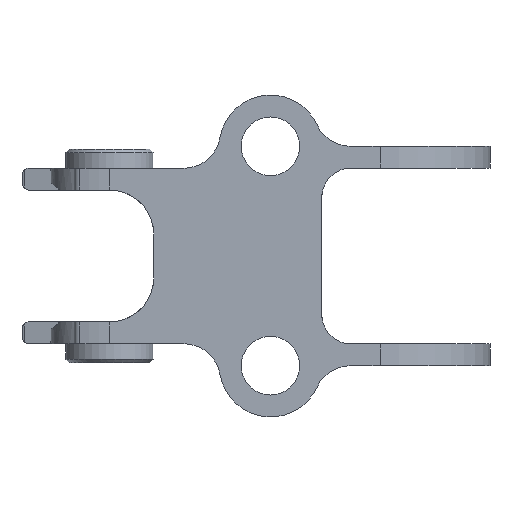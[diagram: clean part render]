
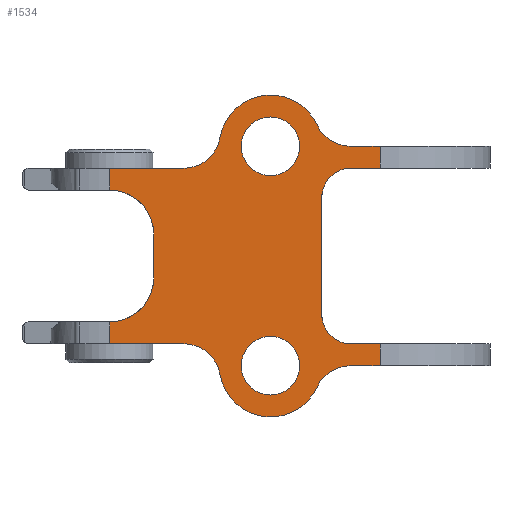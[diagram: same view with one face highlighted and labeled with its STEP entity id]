
A CAD part, front view. The second image highlights one B-rep face of the part: STEP entity #1534.
In plain terms, the highlighted planar face has unit normal (0, -1, 0).
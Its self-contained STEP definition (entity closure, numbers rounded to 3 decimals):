
#60=CARTESIAN_POINT('',(140.096,175.713,15.));
#61=VERTEX_POINT('',#60);
#62=CARTESIAN_POINT('',(138.096,175.713,15.));
#63=DIRECTION('',(0.0,1.0,0.0));
#64=DIRECTION('',(-1.0,0.0,0.0));
#65=AXIS2_PLACEMENT_3D('',#62,#63,#64);
#66=CIRCLE('',#65,2.0);
#67=EDGE_CURVE('',#61,#61,#66,.T.);
#88=CARTESIAN_POINT('',(140.096,175.713,0.));
#89=VERTEX_POINT('',#88);
#90=CARTESIAN_POINT('',(138.096,175.713,0.));
#91=DIRECTION('',(0.0,1.0,0.0));
#92=DIRECTION('',(-1.0,0.0,0.0));
#93=AXIS2_PLACEMENT_3D('',#90,#91,#92);
#94=CIRCLE('',#93,2.0);
#95=EDGE_CURVE('',#89,#89,#94,.T.);
#116=CARTESIAN_POINT('',(141.278,175.713,16.458));
#117=VERTEX_POINT('',#116);
#124=CARTESIAN_POINT('',(143.55,175.713,15.));
#125=VERTEX_POINT('',#124);
#126=CARTESIAN_POINT('',(143.55,175.713,17.5));
#127=DIRECTION('',(0.0,-1.0,0.0));
#128=DIRECTION('',(-0.909,0.0,-0.417));
#129=AXIS2_PLACEMENT_3D('',#126,#127,#128);
#130=CIRCLE('',#129,2.5);
#131=EDGE_CURVE('',#117,#125,#130,.T.);
#156=CARTESIAN_POINT('',(134.645,175.713,15.583));
#157=VERTEX_POINT('',#156);
#164=CARTESIAN_POINT('',(138.096,175.713,15.));
#165=DIRECTION('',(0.0,1.0,0.0));
#166=DIRECTION('',(-0.909,0.0,-0.417));
#167=AXIS2_PLACEMENT_3D('',#164,#165,#166);
#168=CIRCLE('',#167,3.5);
#169=EDGE_CURVE('',#157,#117,#168,.T.);
#189=CARTESIAN_POINT('',(132.18,175.713,13.5));
#190=VERTEX_POINT('',#189);
#197=CARTESIAN_POINT('',(132.18,175.713,16.));
#198=DIRECTION('',(0.0,-1.,0.0));
#199=DIRECTION('',(0.,0.0,-1.));
#200=AXIS2_PLACEMENT_3D('',#197,#198,#199);
#201=CIRCLE('',#200,2.5);
#202=EDGE_CURVE('',#190,#157,#201,.T.);
#224=CARTESIAN_POINT('',(134.645,175.713,-0.583));
#225=VERTEX_POINT('',#224);
#232=CARTESIAN_POINT('',(132.18,175.713,1.5));
#233=VERTEX_POINT('',#232);
#234=CARTESIAN_POINT('',(132.18,175.713,-1.));
#235=DIRECTION('',(0.0,-1.,0.0));
#236=DIRECTION('',(0.986,0.0,0.167));
#237=AXIS2_PLACEMENT_3D('',#234,#235,#236);
#238=CIRCLE('',#237,2.5);
#239=EDGE_CURVE('',#225,#233,#238,.T.);
#264=CARTESIAN_POINT('',(141.278,175.713,-1.458));
#265=VERTEX_POINT('',#264);
#272=CARTESIAN_POINT('',(138.096,175.713,0.));
#273=DIRECTION('',(0.0,1.,0.0));
#274=DIRECTION('',(0.986,0.0,0.167));
#275=AXIS2_PLACEMENT_3D('',#272,#273,#274);
#276=CIRCLE('',#275,3.5);
#277=EDGE_CURVE('',#265,#225,#276,.T.);
#297=CARTESIAN_POINT('',(143.55,175.713,0.0));
#298=VERTEX_POINT('',#297);
#305=CARTESIAN_POINT('',(143.55,175.713,-2.5));
#306=DIRECTION('',(0.0,-1.0,0.0));
#307=DIRECTION('',(0.0,0.0,1.0));
#308=AXIS2_PLACEMENT_3D('',#305,#306,#307);
#309=CIRCLE('',#308,2.5);
#310=EDGE_CURVE('',#298,#265,#309,.T.);
#330=CARTESIAN_POINT('',(130.115,175.713,13.5));
#331=VERTEX_POINT('',#330);
#338=CARTESIAN_POINT('',(132.18,175.713,13.5));
#339=DIRECTION('',(-1.,0.,0.));
#340=VECTOR('',#339,2.064);
#341=LINE('',#338,#340);
#342=EDGE_CURVE('',#190,#331,#341,.T.);
#361=CARTESIAN_POINT('',(145.596,175.713,0.0));
#362=VERTEX_POINT('',#361);
#370=CARTESIAN_POINT('',(143.55,175.713,0.0));
#371=DIRECTION('',(1.0,0.0,0.0));
#372=VECTOR('',#371,2.046);
#373=LINE('',#370,#372);
#374=EDGE_CURVE('',#298,#362,#373,.T.);
#425=CARTESIAN_POINT('',(145.596,175.713,1.5));
#426=VERTEX_POINT('',#425);
#442=CARTESIAN_POINT('',(143.596,175.713,1.5));
#443=VERTEX_POINT('',#442);
#450=CARTESIAN_POINT('',(145.596,175.713,1.5));
#451=DIRECTION('',(-1.0,0.0,0.0));
#452=VECTOR('',#451,2.);
#453=LINE('',#450,#452);
#454=EDGE_CURVE('',#426,#443,#453,.T.);
#507=CARTESIAN_POINT('',(145.596,175.713,13.5));
#508=VERTEX_POINT('',#507);
#518=CARTESIAN_POINT('',(143.596,175.713,13.5));
#519=VERTEX_POINT('',#518);
#520=CARTESIAN_POINT('',(143.596,175.713,13.5));
#521=DIRECTION('',(1.0,0.0,0.0));
#522=VECTOR('',#521,2.);
#523=LINE('',#520,#522);
#524=EDGE_CURVE('',#519,#508,#523,.T.);
#1002=CARTESIAN_POINT('',(141.596,175.713,11.5));
#1003=VERTEX_POINT('',#1002);
#1004=CARTESIAN_POINT('',(143.596,175.713,11.5));
#1005=DIRECTION('',(0.0,1.0,0.0));
#1006=DIRECTION('',(-1.0,0.0,0.0));
#1007=AXIS2_PLACEMENT_3D('',#1004,#1005,#1006);
#1008=CIRCLE('',#1007,2.0);
#1009=EDGE_CURVE('',#1003,#519,#1008,.T.);
#1107=CARTESIAN_POINT('',(127.115,175.713,12.));
#1108=VERTEX_POINT('',#1107);
#1115=CARTESIAN_POINT('',(127.096,175.713,12.));
#1116=VERTEX_POINT('',#1115);
#1117=CARTESIAN_POINT('',(127.096,175.713,12.));
#1118=DIRECTION('',(1.0,0.,0.0));
#1119=VECTOR('',#1118,0.02);
#1120=LINE('',#1117,#1119);
#1121=EDGE_CURVE('',#1116,#1108,#1120,.T.);
#1190=CARTESIAN_POINT('',(130.115,175.713,9.));
#1191=VERTEX_POINT('',#1190);
#1198=CARTESIAN_POINT('',(127.115,175.713,9.));
#1199=DIRECTION('',(0.0,1.0,0.0));
#1200=DIRECTION('',(0.0,0.0,-1.0));
#1201=AXIS2_PLACEMENT_3D('',#1198,#1199,#1200);
#1202=CIRCLE('',#1201,3.);
#1203=EDGE_CURVE('',#1108,#1191,#1202,.T.);
#1239=CARTESIAN_POINT('',(130.115,175.713,6.));
#1240=VERTEX_POINT('',#1239);
#1247=CARTESIAN_POINT('',(130.115,175.713,9.));
#1248=DIRECTION('',(0.0,0.0,-1.0));
#1249=VECTOR('',#1248,3.);
#1250=LINE('',#1247,#1249);
#1251=EDGE_CURVE('',#1191,#1240,#1250,.T.);
#1288=CARTESIAN_POINT('',(127.115,175.713,3.));
#1289=VERTEX_POINT('',#1288);
#1296=CARTESIAN_POINT('',(127.115,175.713,6.));
#1297=DIRECTION('',(0.0,1.0,0.0));
#1298=DIRECTION('',(-1.0,0.0,0.0));
#1299=AXIS2_PLACEMENT_3D('',#1296,#1297,#1298);
#1300=CIRCLE('',#1299,3.);
#1301=EDGE_CURVE('',#1240,#1289,#1300,.T.);
#1423=CARTESIAN_POINT('',(127.096,175.713,3.));
#1424=VERTEX_POINT('',#1423);
#1432=CARTESIAN_POINT('',(127.115,175.713,3.));
#1433=DIRECTION('',(-1.0,0.,0.0));
#1434=VECTOR('',#1433,0.02);
#1435=LINE('',#1432,#1434);
#1436=EDGE_CURVE('',#1289,#1424,#1435,.T.);
#1442=CARTESIAN_POINT('',(145.596,175.713,0.0));
#1443=DIRECTION('',(0.0,-1.0,0.0));
#1444=DIRECTION('',(0.0,0.0,-1.0));
#1445=AXIS2_PLACEMENT_3D('',#1442,#1443,#1444);
#1446=PLANE('',#1445);
#1447=CARTESIAN_POINT('',(127.096,175.713,13.5));
#1448=VERTEX_POINT('',#1447);
#1449=CARTESIAN_POINT('',(130.115,175.713,13.5));
#1450=DIRECTION('',(-1.,0.,0.));
#1451=VECTOR('',#1450,3.02);
#1452=LINE('',#1449,#1451);
#1453=EDGE_CURVE('',#331,#1448,#1452,.T.);
#1454=ORIENTED_EDGE('',*,*,#1453,.T.);
#1455=CARTESIAN_POINT('',(127.096,175.713,12.));
#1456=DIRECTION('',(0.0,0.0,1.0));
#1457=VECTOR('',#1456,1.5);
#1458=LINE('',#1455,#1457);
#1459=EDGE_CURVE('',#1116,#1448,#1458,.T.);
#1460=ORIENTED_EDGE('',*,*,#1459,.F.);
#1461=ORIENTED_EDGE('',*,*,#1121,.T.);
#1462=ORIENTED_EDGE('',*,*,#1203,.T.);
#1463=ORIENTED_EDGE('',*,*,#1251,.T.);
#1464=ORIENTED_EDGE('',*,*,#1301,.T.);
#1465=ORIENTED_EDGE('',*,*,#1436,.T.);
#1466=CARTESIAN_POINT('',(127.096,175.713,1.5));
#1467=VERTEX_POINT('',#1466);
#1468=CARTESIAN_POINT('',(127.096,175.713,1.5));
#1469=DIRECTION('',(0.0,0.0,1.0));
#1470=VECTOR('',#1469,1.5);
#1471=LINE('',#1468,#1470);
#1472=EDGE_CURVE('',#1467,#1424,#1471,.T.);
#1473=ORIENTED_EDGE('',*,*,#1472,.F.);
#1474=CARTESIAN_POINT('',(127.096,175.713,1.5));
#1475=DIRECTION('',(1.0,0.0,0.));
#1476=VECTOR('',#1475,5.084);
#1477=LINE('',#1474,#1476);
#1478=EDGE_CURVE('',#1467,#233,#1477,.T.);
#1479=ORIENTED_EDGE('',*,*,#1478,.T.);
#1480=ORIENTED_EDGE('',*,*,#239,.F.);
#1481=ORIENTED_EDGE('',*,*,#277,.F.);
#1482=ORIENTED_EDGE('',*,*,#310,.F.);
#1483=ORIENTED_EDGE('',*,*,#374,.T.);
#1484=CARTESIAN_POINT('',(145.596,175.713,0.0));
#1485=DIRECTION('',(0.0,0.0,1.0));
#1486=VECTOR('',#1485,1.5);
#1487=LINE('',#1484,#1486);
#1488=EDGE_CURVE('',#362,#426,#1487,.T.);
#1489=ORIENTED_EDGE('',*,*,#1488,.T.);
#1490=ORIENTED_EDGE('',*,*,#454,.T.);
#1491=CARTESIAN_POINT('',(141.596,175.713,3.5));
#1492=VERTEX_POINT('',#1491);
#1493=CARTESIAN_POINT('',(143.596,175.713,3.5));
#1494=DIRECTION('',(0.0,1.0,0.0));
#1495=DIRECTION('',(0.0,0.0,-1.0));
#1496=AXIS2_PLACEMENT_3D('',#1493,#1494,#1495);
#1497=CIRCLE('',#1496,2.0);
#1498=EDGE_CURVE('',#443,#1492,#1497,.T.);
#1499=ORIENTED_EDGE('',*,*,#1498,.T.);
#1500=CARTESIAN_POINT('',(141.596,175.713,3.5));
#1501=DIRECTION('',(0.0,0.0,1.0));
#1502=VECTOR('',#1501,8.);
#1503=LINE('',#1500,#1502);
#1504=EDGE_CURVE('',#1492,#1003,#1503,.T.);
#1505=ORIENTED_EDGE('',*,*,#1504,.T.);
#1506=ORIENTED_EDGE('',*,*,#1009,.T.);
#1507=ORIENTED_EDGE('',*,*,#524,.T.);
#1508=CARTESIAN_POINT('',(145.596,175.713,15.0));
#1509=VERTEX_POINT('',#1508);
#1510=CARTESIAN_POINT('',(145.596,175.713,13.5));
#1511=DIRECTION('',(0.0,0.0,1.0));
#1512=VECTOR('',#1511,1.5);
#1513=LINE('',#1510,#1512);
#1514=EDGE_CURVE('',#508,#1509,#1513,.T.);
#1515=ORIENTED_EDGE('',*,*,#1514,.T.);
#1516=CARTESIAN_POINT('',(145.596,175.713,15.0));
#1517=DIRECTION('',(-1.0,0.0,0.0));
#1518=VECTOR('',#1517,2.046);
#1519=LINE('',#1516,#1518);
#1520=EDGE_CURVE('',#1509,#125,#1519,.T.);
#1521=ORIENTED_EDGE('',*,*,#1520,.T.);
#1522=ORIENTED_EDGE('',*,*,#131,.F.);
#1523=ORIENTED_EDGE('',*,*,#169,.F.);
#1524=ORIENTED_EDGE('',*,*,#202,.F.);
#1525=ORIENTED_EDGE('',*,*,#342,.T.);
#1526=EDGE_LOOP('',(#1454,#1460,#1461,#1462,#1463,#1464,#1465,#1473,#1479,#1480,#1481,#1482,#1483,#1489,#1490,#1499,#1505,#1506,#1507,#1515,#1521,#1522,#1523,#1524,#1525));
#1527=FACE_OUTER_BOUND('',#1526,.T.);
#1528=ORIENTED_EDGE('',*,*,#67,.T.);
#1529=EDGE_LOOP('',(#1528));
#1530=FACE_BOUND('',#1529,.T.);
#1531=ORIENTED_EDGE('',*,*,#95,.T.);
#1532=EDGE_LOOP('',(#1531));
#1533=FACE_BOUND('',#1532,.T.);
#1534=ADVANCED_FACE('',(#1527,#1530,#1533),#1446,.T.);
